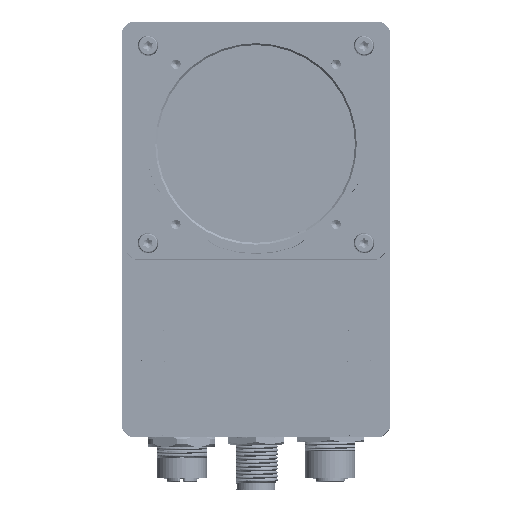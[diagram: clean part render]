
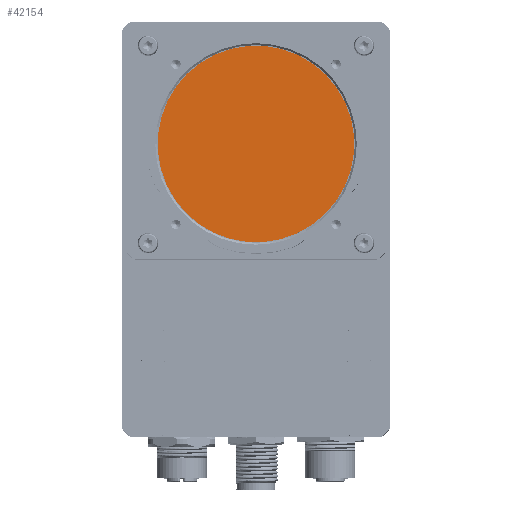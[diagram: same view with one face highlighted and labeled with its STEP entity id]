
A CAD part, top view. The second image highlights one B-rep face of the part: STEP entity #42154.
In plain terms, the highlighted planar face has unit normal (0, 0, 1).
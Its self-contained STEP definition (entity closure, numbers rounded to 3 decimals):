
#6435 = VERTEX_POINT ( 'NONE', #198409 ) ;
#27683 = EDGE_LOOP ( 'NONE', ( #233481, #114108 ) ) ;
#34459 = CARTESIAN_POINT ( 'NONE',  ( -26.384, 29.48, 95.3 ) ) ;
#35554 = FACE_OUTER_BOUND ( 'NONE', #27683, .T. ) ;
#36022 = DIRECTION ( 'NONE',  ( 0., 0., 1. ) ) ;
#37819 = AXIS2_PLACEMENT_3D ( 'NONE', #110065, #162270, #182419 ) ;
#42154 = ADVANCED_FACE ( 'NONE', ( #35554 ), #164611, .T. ) ;
#46761 = VERTEX_POINT ( 'NONE', #34459 ) ;
#84435 = CARTESIAN_POINT ( 'NONE',  ( 0., 27., 95.3 ) ) ;
#84637 = EDGE_CURVE ( 'NONE', #46761, #6435, #163630, .T. ) ;
#105687 = DIRECTION ( 'NONE',  ( 0.996, -0.094, 0. ) ) ;
#108212 = DIRECTION ( 'NONE',  ( 0.996, -0.094, 0. ) ) ;
#110065 = CARTESIAN_POINT ( 'NONE',  ( 0., 27., 95.3 ) ) ;
#114108 = ORIENTED_EDGE ( 'NONE', *, *, #164424, .T. ) ;
#118268 = AXIS2_PLACEMENT_3D ( 'NONE', #179361, #36022, #108212 ) ;
#162270 = DIRECTION ( 'NONE',  ( 0., 0., 1. ) ) ;
#163630 = CIRCLE ( 'NONE', #118268, 26.5 ) ;
#164424 = EDGE_CURVE ( 'NONE', #6435, #46761, #193353, .T. ) ;
#164611 = PLANE ( 'NONE',  #37819 ) ;
#170640 = AXIS2_PLACEMENT_3D ( 'NONE', #84435, #211200, #105687 ) ;
#179361 = CARTESIAN_POINT ( 'NONE',  ( 0., 27., 95.3 ) ) ;
#182419 = DIRECTION ( 'NONE',  ( 0.996, -0.094, 0. ) ) ;
#193353 = CIRCLE ( 'NONE', #170640, 26.5 ) ;
#198409 = CARTESIAN_POINT ( 'NONE',  ( 26.384, 24.52, 95.3 ) ) ;
#211200 = DIRECTION ( 'NONE',  ( 0., 0., 1. ) ) ;
#233481 = ORIENTED_EDGE ( 'NONE', *, *, #84637, .T. ) ;
